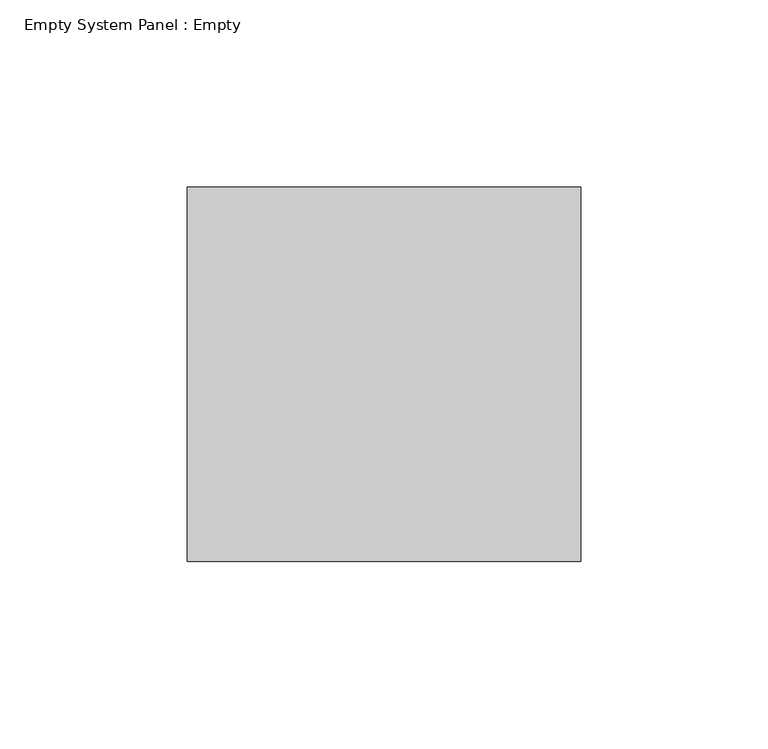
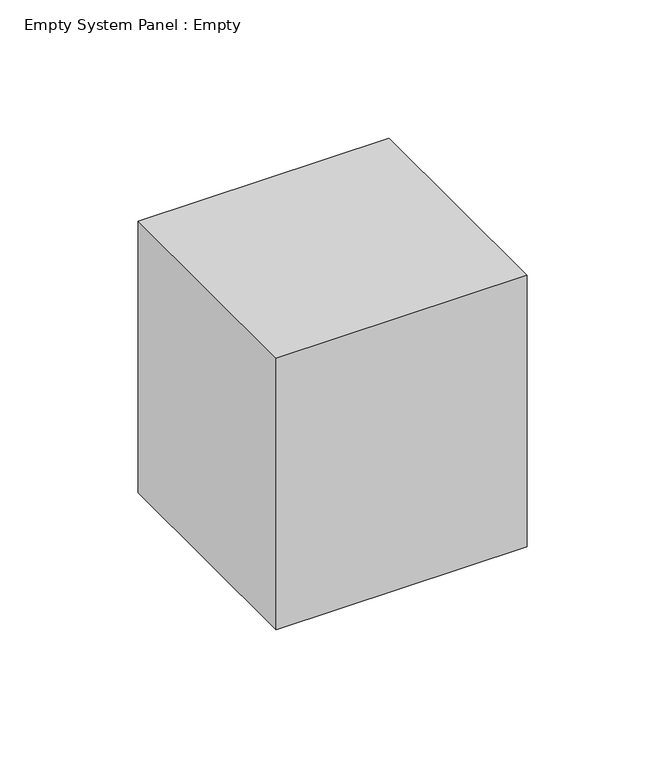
"""IFC4 building model written with IfcOpenShell, lengths in millimetres: plate geometry, Empty System Panel : Empty."""

from ifc_helpers import new_model, si_unit, origin, origin_with_axes, place, context, project, spatial, polyline, outline, extrude, source, transform, mapped, element, save


def empty_system_panel_empty_7a4fbe29(model_context):
    return source(origin(), model_context, "Body", "SweptSolid", [
        extrude(outline(polyline([(52.5000002, 50.0), (-52.5000002, 50.0), (-52.5000002, 150.0), (52.5000002, 150.0), (52.5000002, 50.0)])), origin_with_axes(), (0.0, 0.0, 1.0), 120.0),
    ])


if __name__ == "__main__":
    model = new_model("IFC4")
    model_context = context("Model", 3, world=origin())
    ifc_project = project(units=[si_unit("LENGTHUNIT", "METRE", prefix="MILLI")], contexts=[model_context])
    site = spatial("IfcSite", under=ifc_project)
    building = spatial("IfcBuilding", under=site)
    placement = place(None, origin())
    empty_system_panel_empty_shape = empty_system_panel_empty_7a4fbe29(model_context)
    element("IfcPlate", 1, ObjectType="Empty System Panel : Empty", at=placement, inside=building, context=model_context, shape_type="MappedRepresentation", body=[
        mapped(empty_system_panel_empty_shape, transform((0.0, 0.0, 0.0), x_axis=(1.0, 0.0, 0.0), y_axis=(0.0, 1.0, 0.0), z_axis=(0.0, 0.0, 1.0))),
    ])
    save(model, "model.ifc")
